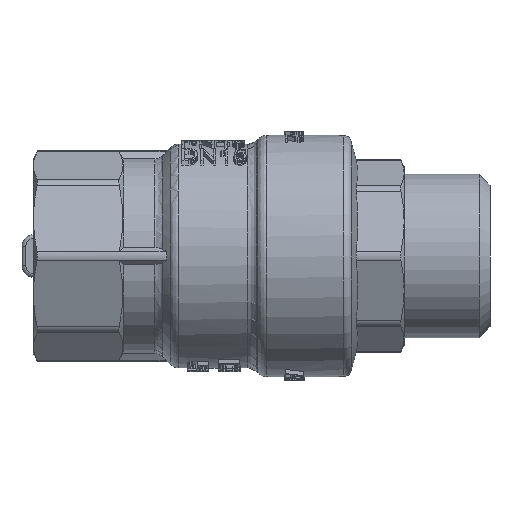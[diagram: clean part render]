
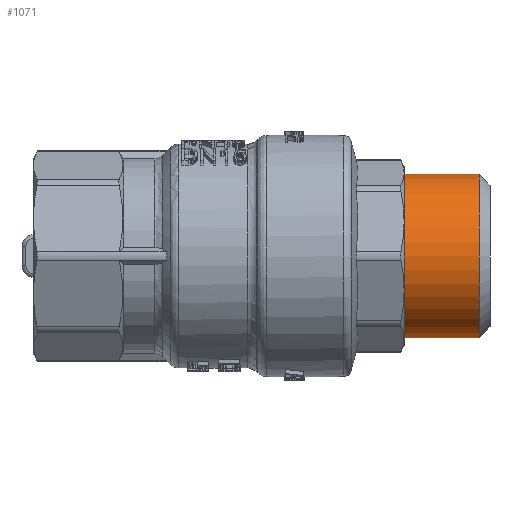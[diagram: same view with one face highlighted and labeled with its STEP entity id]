
A CAD part, front view. The second image highlights one B-rep face of the part: STEP entity #1071.
In plain terms, the highlighted cylindrical face has radius 10.477 mm (diameter 20.955 mm), a full revolution.
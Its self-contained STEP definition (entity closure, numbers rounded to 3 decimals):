
#1071=ADVANCED_FACE('',(#9871,#9873),#9875,.T.);
#9871=FACE_OUTER_BOUND('',#9872,.T.);
#9872=EDGE_LOOP('',(#21364));
#9873=FACE_OUTER_BOUND('',#9874,.T.);
#9874=EDGE_LOOP('',(#21365));
#9875=CYLINDRICAL_SURFACE('',#9876,10.478);
#9876=AXIS2_PLACEMENT_3D('',#9877,#9878,#9879);
#9877=CARTESIAN_POINT('',(5.5,0.,0.));
#9878=DIRECTION('',(1.,0.,0.));
#9879=DIRECTION('',(0.,0.,-1.));
#21364=ORIENTED_EDGE('',*,*,#28039,.T.);
#21365=ORIENTED_EDGE('',*,*,#27948,.F.);
#27948=EDGE_CURVE('',#35524,#35524,#35525,.T.);
#28039=EDGE_CURVE('',#35623,#35623,#35624,.F.);
#35524=VERTEX_POINT('',#60682);
#35525=CIRCLE('',#60683,10.478);
#35623=VERTEX_POINT('',#60965);
#35624=CIRCLE('',#60966,10.478);
#60682=CARTESIAN_POINT('',(22.5,0.,-10.478));
#60683=AXIS2_PLACEMENT_3D('',#60684,#60685,#60686);
#60684=CARTESIAN_POINT('',(22.5,0.,0.));
#60685=DIRECTION('',(-1.,0.,0.));
#60686=DIRECTION('',(0.,0.,-1.));
#60965=CARTESIAN_POINT('',(32.1,0.,-10.478));
#60966=AXIS2_PLACEMENT_3D('',#60967,#60968,#60969);
#60967=CARTESIAN_POINT('',(32.1,0.,0.));
#60968=DIRECTION('',(1.,0.,0.));
#60969=DIRECTION('',(0.,0.,-1.));
